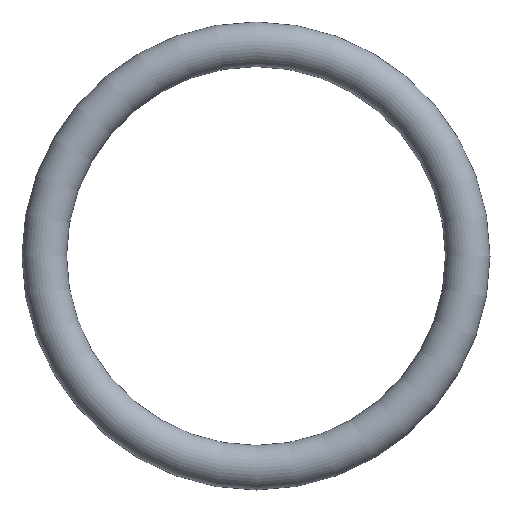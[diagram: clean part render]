
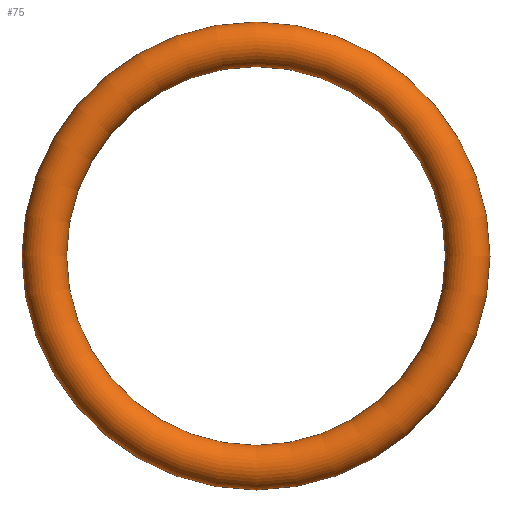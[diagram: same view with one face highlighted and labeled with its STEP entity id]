
A CAD part, front view. The second image highlights one B-rep face of the part: STEP entity #75.
In plain terms, the highlighted toroidal (fillet/blend) face has major radius 9.5 mm and minor radius 1 mm.
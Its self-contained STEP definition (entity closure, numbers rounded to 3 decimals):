
#75 = ADVANCED_FACE( '', ( #77 ), #78, .T. );
#77 = FACE_BOUND( '', #79, .T. );
#78 = TOROIDAL_SURFACE( '', #80, 9.5, 1. );
#79 = VERTEX_LOOP( '', #81 );
#80 = AXIS2_PLACEMENT_3D( '', #82, #83, #84 );
#81 = VERTEX_POINT( '', #85 );
#82 = CARTESIAN_POINT( '', ( 0., 0., 0. ) );
#83 = DIRECTION( '', ( 0., -1., 0. ) );
#84 = DIRECTION( '', ( 0., 0., -1. ) );
#85 = CARTESIAN_POINT( '', ( 0., 0., -10.5 ) );
